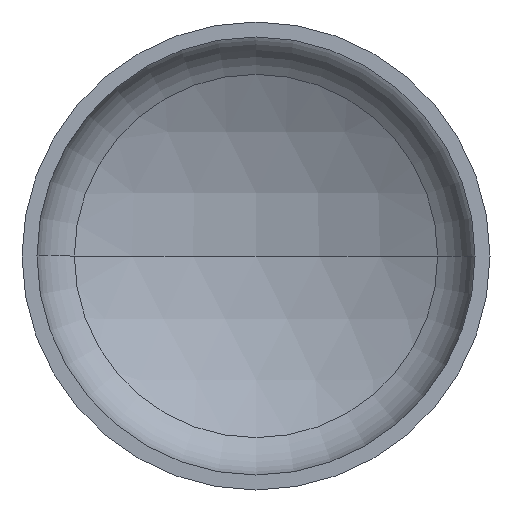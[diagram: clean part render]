
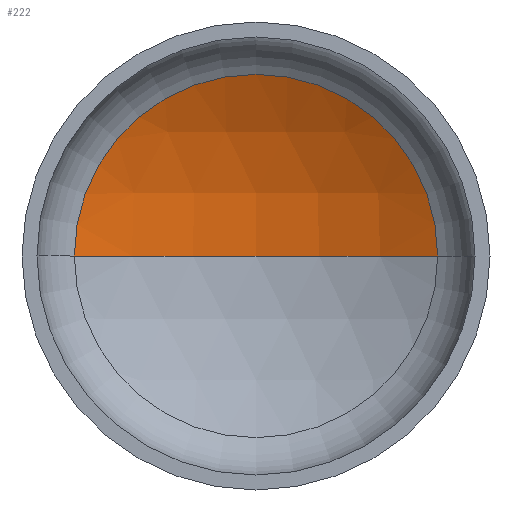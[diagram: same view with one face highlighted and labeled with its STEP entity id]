
A CAD part, front view. The second image highlights one B-rep face of the part: STEP entity #222.
In plain terms, the highlighted spherical face has radius 1600 mm.
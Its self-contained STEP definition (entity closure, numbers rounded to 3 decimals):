
#10 = CIRCLE ( 'NONE', #30, 776.434 ) ;
#21 = AXIS2_PLACEMENT_3D ( 'NONE', #26, #160, #115 ) ;
#23 = AXIS2_PLACEMENT_3D ( 'NONE', #377, #200, #128 ) ;
#24 = AXIS2_PLACEMENT_3D ( 'NONE', #401, #288, #320 ) ;
#26 = CARTESIAN_POINT ( 'NONE',  ( 0., -1007.929, 0. ) ) ;
#30 = AXIS2_PLACEMENT_3D ( 'NONE', #143, #351, #110 ) ;
#35 = VERTEX_POINT ( 'NONE', #240 ) ;
#88 = VERTEX_POINT ( 'NONE', #274 ) ;
#92 = EDGE_CURVE ( 'NONE', #35, #88, #10, .T. ) ;
#97 = EDGE_CURVE ( 'NONE', #142, #35, #118, .T. ) ;
#98 = EDGE_CURVE ( 'NONE', #142, #88, #261, .T. ) ;
#110 = DIRECTION ( 'NONE',  ( 1., 0., 0. ) ) ;
#115 = DIRECTION ( 'NONE',  ( -1., 0., 0. ) ) ;
#118 = CIRCLE ( 'NONE', #24, 1600. ) ;
#128 = DIRECTION ( 'NONE',  ( 1., 0., 0. ) ) ;
#142 = VERTEX_POINT ( 'NONE', #225 ) ;
#143 = CARTESIAN_POINT ( 'NONE',  ( 0., 391.053, 0. ) ) ;
#160 = DIRECTION ( 'NONE',  ( 0., 0., -1. ) ) ;
#200 = DIRECTION ( 'NONE',  ( 0., 0., 1. ) ) ;
#222 = ADVANCED_FACE ( 'NONE', ( #328 ), #343, .F. ) ;
#225 = CARTESIAN_POINT ( 'NONE',  ( 0., 592.071, 0. ) ) ;
#240 = CARTESIAN_POINT ( 'NONE',  ( 776.434, 391.053, 0. ) ) ;
#261 = CIRCLE ( 'NONE', #23, 1600. ) ;
#274 = CARTESIAN_POINT ( 'NONE',  ( -776.434, 391.053, 0. ) ) ;
#288 = DIRECTION ( 'NONE',  ( 0., 0., -1. ) ) ;
#311 = ORIENTED_EDGE ( 'NONE', *, *, #97, .T. ) ;
#320 = DIRECTION ( 'NONE',  ( -1., 0., 0. ) ) ;
#328 = FACE_OUTER_BOUND ( 'NONE', #398, .T. ) ;
#343 = SPHERICAL_SURFACE ( 'NONE', #21, 1600. ) ;
#351 = DIRECTION ( 'NONE',  ( 0., -1., 0. ) ) ;
#356 = ORIENTED_EDGE ( 'NONE', *, *, #98, .F. ) ;
#377 = CARTESIAN_POINT ( 'NONE',  ( 0., -1007.929, 0. ) ) ;
#398 = EDGE_LOOP ( 'NONE', ( #356, #311, #403 ) ) ;
#401 = CARTESIAN_POINT ( 'NONE',  ( 0., -1007.929, 0. ) ) ;
#403 = ORIENTED_EDGE ( 'NONE', *, *, #92, .T. ) ;
